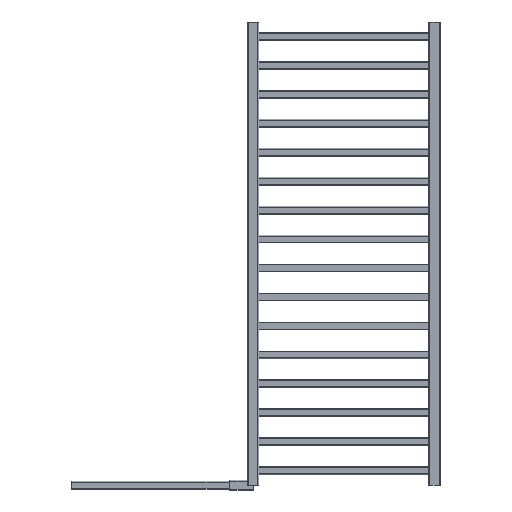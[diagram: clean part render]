
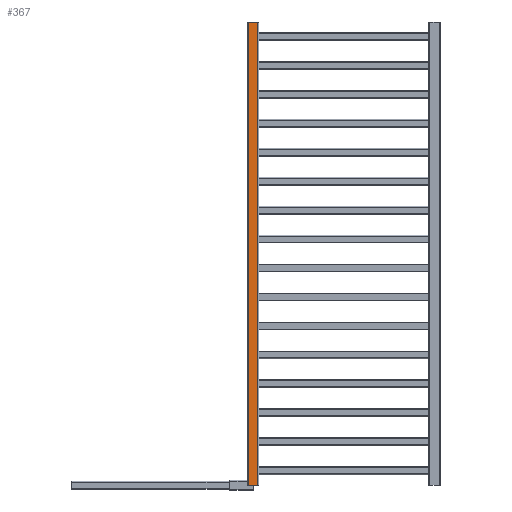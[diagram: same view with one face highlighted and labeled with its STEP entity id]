
A CAD part, left-side view. The second image highlights one B-rep face of the part: STEP entity #367.
In plain terms, the highlighted planar face has unit normal (-1, 0, 0).
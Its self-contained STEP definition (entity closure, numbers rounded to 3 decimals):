
#367 = ADVANCED_FACE( '', ( #753 ), #754, .F. );
#753 = FACE_OUTER_BOUND( '', #1158, .T. );
#754 = PLANE( '', #1159 );
#1158 = EDGE_LOOP( '', ( #2154, #2155, #2156, #2157 ) );
#1159 = AXIS2_PLACEMENT_3D( '', #2158, #2159, #2160 );
#2154 = ORIENTED_EDGE( '', *, *, #2578, .F. );
#2155 = ORIENTED_EDGE( '', *, *, #2579, .T. );
#2156 = ORIENTED_EDGE( '', *, *, #2345, .T. );
#2157 = ORIENTED_EDGE( '', *, *, #2240, .T. );
#2158 = CARTESIAN_POINT( '', ( -15., 15., 1200. ) );
#2159 = DIRECTION( '', ( 1., 0., 0. ) );
#2160 = DIRECTION( '', ( 0., 0., -1. ) );
#2240 = EDGE_CURVE( '', #2636, #2633, #2637, .F. );
#2345 = EDGE_CURVE( '', #2814, #2636, #2815, .T. );
#2578 = EDGE_CURVE( '', #3127, #2633, #3128, .T. );
#2579 = EDGE_CURVE( '', #3127, #2814, #3129, .T. );
#2633 = VERTEX_POINT( '', #3201 );
#2636 = VERTEX_POINT( '', #3204 );
#2637 = LINE( '', #3205, #3206 );
#2814 = VERTEX_POINT( '', #3455 );
#2815 = LINE( '', #3456, #3457 );
#3127 = VERTEX_POINT( '', #3915 );
#3128 = LINE( '', #3916, #3917 );
#3129 = LINE( '', #3918, #3919 );
#3201 = CARTESIAN_POINT( '', ( -15., -12., 1200. ) );
#3204 = CARTESIAN_POINT( '', ( -15., -12., 0. ) );
#3205 = CARTESIAN_POINT( '', ( -15., -12., 1200. ) );
#3206 = VECTOR( '', #3954, 1000. );
#3455 = CARTESIAN_POINT( '', ( -15., 12., 0. ) );
#3456 = CARTESIAN_POINT( '', ( -15., 15., 0. ) );
#3457 = VECTOR( '', #4060, 1000. );
#3915 = CARTESIAN_POINT( '', ( -15., 12., 1200. ) );
#3916 = CARTESIAN_POINT( '', ( -15., 15., 1200. ) );
#3917 = VECTOR( '', #4234, 1000. );
#3918 = CARTESIAN_POINT( '', ( -15., 12., 1200. ) );
#3919 = VECTOR( '', #4235, 1000. );
#3954 = DIRECTION( '', ( 0., 0., -1. ) );
#4060 = DIRECTION( '', ( 0., -1., 0. ) );
#4234 = DIRECTION( '', ( 0., -1., 0. ) );
#4235 = DIRECTION( '', ( 0., 0., -1. ) );
